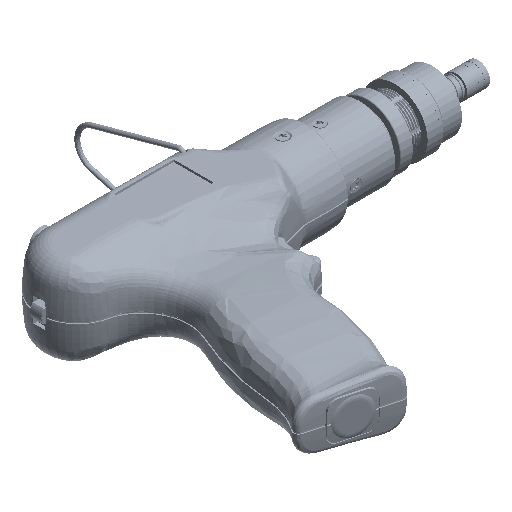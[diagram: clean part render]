
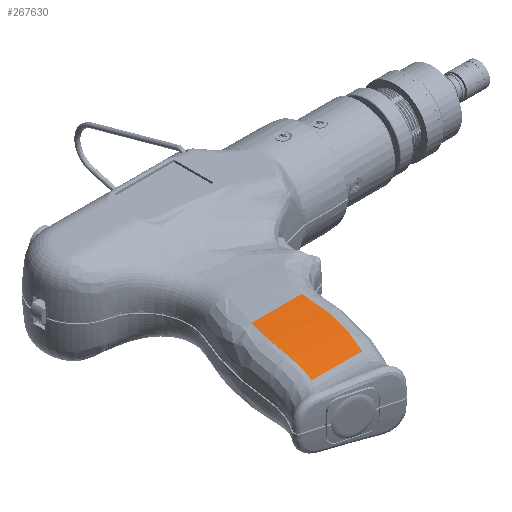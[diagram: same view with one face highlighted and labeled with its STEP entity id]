
A CAD part, isometric view. The second image highlights one B-rep face of the part: STEP entity #267630.
In plain terms, the highlighted cylindrical face has radius 275.277 mm (diameter 550.554 mm), a partial arc.
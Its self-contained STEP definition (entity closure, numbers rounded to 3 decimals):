
#1882 = CARTESIAN_POINT ( 'NONE',  ( -37.012, -56.158, 24.851 ) ) ;
#10580 = CARTESIAN_POINT ( 'NONE',  ( -37.594, -58.795, 24.553 ) ) ;
#12945 = CARTESIAN_POINT ( 'NONE',  ( -8.636, -48.689, 25.585 ) ) ;
#14195 = CARTESIAN_POINT ( 'NONE',  ( -7.089, -39.622, 26.199 ) ) ;
#34632 = CARTESIAN_POINT ( 'NONE',  ( -36.857, -55.418, 24.933 ) ) ;
#39762 = CARTESIAN_POINT ( 'NONE',  ( -5.935, -25.531, 26.56 ) ) ;
#41962 = CARTESIAN_POINT ( 'NONE',  ( -8.409, -47.659, 25.67 ) ) ;
#43228 = CARTESIAN_POINT ( 'NONE',  ( -7.03, -39.095, 26.226 ) ) ;
#44469 = CARTESIAN_POINT ( 'NONE',  ( -6.833, -37.132, 26.317 ) ) ;
#45014 = CARTESIAN_POINT ( 'NONE',  ( -6.133, -25.531, 26.56 ) ) ;
#50062 = CARTESIAN_POINT ( 'NONE',  ( -33.79, -33.82, 26.439 ) ) ;
#57374 = ORIENTED_EDGE ( 'NONE', *, *, #143124, .T. ) ;
#59590 = EDGE_CURVE ( 'NONE', #366988, #119043, #328918, .T. ) ;
#60059 = FACE_OUTER_BOUND ( 'NONE', #230865, .T. ) ;
#69615 = CARTESIAN_POINT ( 'NONE',  ( -11.607, -58.804, 24.543 ) ) ;
#72152 = CARTESIAN_POINT ( 'NONE',  ( -6.739, -35.883, 26.366 ) ) ;
#72678 = CARTESIAN_POINT ( 'NONE',  ( -6.525, -30.34, 26.518 ) ) ;
#73361 = CARTESIAN_POINT ( 'NONE',  ( -13.43, -63.376, 23.946 ) ) ;
#89570 = VERTEX_POINT ( 'NONE', #366805 ) ;
#90597 = LINE ( 'NONE', #373429, #207756 ) ;
#94478 = EDGE_CURVE ( 'NONE', #260643, #144713, #90597, .T. ) ;
#98798 = CARTESIAN_POINT ( 'NONE',  ( -38.269, -61.103, 24.262 ) ) ;
#100640 = CYLINDRICAL_SURFACE ( 'NONE', #291442, 275.277 ) ;
#101125 = CARTESIAN_POINT ( 'NONE',  ( -6.681, -34.992, 26.398 ) ) ;
#101779 = DIRECTION ( 'NONE',  ( 0., 0., 1. ) ) ;
#104326 = CARTESIAN_POINT ( 'NONE',  ( -34.285, -36.404, 26.346 ) ) ;
#108062 = CARTESIAN_POINT ( 'NONE',  ( -33.478, -32.349, 26.478 ) ) ;
#117799 = CARTESIAN_POINT ( 'NONE',  ( -36.304, -52.295, 25.261 ) ) ;
#119043 = VERTEX_POINT ( 'NONE', #253167 ) ;
#122780 = CARTESIAN_POINT ( 'NONE',  ( -36.094, -50.494, 25.429 ) ) ;
#123136 = ORIENTED_EDGE ( 'NONE', *, *, #59590, .T. ) ;
#124009 = B_SPLINE_CURVE_WITH_KNOTS ( 'NONE', 3,
 ( #73361, #155329, #128896, #69615, #243609, #300237, #188026, #271282, #185506, #217045, #184274, #12945, #214559, #41962, #330452, #157814, #359328, #186758, #14195, #215803, #43228, #244857, #44469, #72152, #273788, #101125, #130131, #331693, #246104, #366763 ),
 .UNSPECIFIED., .F., .F.,
 ( 4, 2, 1, 2, 2, 1, 1, 2, 2, 1, 1, 1, 2, 2, 1, 1, 2, 2, 4 ),
 ( 0., 0.125, 0.188, 0.219, 0.25, 0.375, 0.438, 0.469, 0.5, 0.625, 0.688, 0.719, 0.734, 0.75, 0.813, 0.844, 0.859, 0.875, 1. ),
 .UNSPECIFIED. ) ;
#128896 = CARTESIAN_POINT ( 'NONE',  ( -12.346, -60.781, 24.297 ) ) ;
#130131 = CARTESIAN_POINT ( 'NONE',  ( -6.67, -34.812, 26.404 ) ) ;
#130835 = CARTESIAN_POINT ( 'NONE',  ( -34.418, -37.143, 26.315 ) ) ;
#132048 = CARTESIAN_POINT ( 'NONE',  ( -32.337, -27.468, 26.56 ) ) ;
#143124 = EDGE_CURVE ( 'NONE', #332050, #89570, #359459, .T. ) ;
#144713 = VERTEX_POINT ( 'NONE', #161797 ) ;
#153831 = EDGE_CURVE ( 'NONE', #119043, #332050, #224671, .T. ) ;
#155329 = CARTESIAN_POINT ( 'NONE',  ( -12.871, -62.086, 24.125 ) ) ;
#157814 = CARTESIAN_POINT ( 'NONE',  ( -7.662, -43.837, 25.957 ) ) ;
#158992 = EDGE_CURVE ( 'NONE', #144713, #366988, #124009, .T. ) ;
#159737 = CARTESIAN_POINT ( 'NONE',  ( -32.821, -29.415, 26.54 ) ) ;
#161797 = CARTESIAN_POINT ( 'NONE',  ( -13.43, -63.376, 23.946 ) ) ;
#162249 = CARTESIAN_POINT ( 'NONE',  ( -31.808, -25.531, 26.56 ) ) ;
#184274 = CARTESIAN_POINT ( 'NONE',  ( -8.872, -49.717, 25.497 ) ) ;
#185506 = CARTESIAN_POINT ( 'NONE',  ( -10.051, -54.127, 25.074 ) ) ;
#186758 = CARTESIAN_POINT ( 'NONE',  ( -7.151, -40.15, 26.172 ) ) ;
#187830 = CARTESIAN_POINT ( 'NONE',  ( -39.103, -63.376, 23.946 ) ) ;
#188026 = CARTESIAN_POINT ( 'NONE',  ( -10.691, -56.138, 24.854 ) ) ;
#189756 = ORIENTED_EDGE ( 'NONE', *, *, #355392, .T. ) ;
#203443 = CARTESIAN_POINT ( 'NONE',  ( -36.655, -54.379, 25.046 ) ) ;
#207756 = VECTOR ( 'NONE', #223766, 1000. ) ;
#214559 = CARTESIAN_POINT ( 'NONE',  ( -8.483, -48.001, 25.642 ) ) ;
#215803 = CARTESIAN_POINT ( 'NONE',  ( -7.049, -39.269, 26.217 ) ) ;
#217045 = CARTESIAN_POINT ( 'NONE',  ( -9.466, -52.104, 25.281 ) ) ;
#222736 = CARTESIAN_POINT ( 'NONE',  ( -34.352, -36.774, 26.331 ) ) ;
#223766 = DIRECTION ( 'NONE',  ( 1., 0., 0. ) ) ;
#224671 = LINE ( 'NONE', #39762, #238043 ) ;
#230865 = EDGE_LOOP ( 'NONE', ( #123136, #336483, #57374, #189756, #266228, #342343 ) ) ;
#238043 = VECTOR ( 'NONE', #296813, 1000. ) ;
#243609 = CARTESIAN_POINT ( 'NONE',  ( -11.25, -57.81, 24.663 ) ) ;
#244166 = CARTESIAN_POINT ( 'NONE',  ( -6.514, -28.726, 26.546 ) ) ;
#244857 = CARTESIAN_POINT ( 'NONE',  ( -6.934, -38.202, 26.269 ) ) ;
#245786 = B_SPLINE_CURVE_WITH_KNOTS ( 'NONE', 3,
 ( #261468, #122780, #117799, #203443, #34632, #324401, #1882, #326886, #10580, #98798, #270183 ),
 .UNSPECIFIED., .F., .F.,
 ( 4, 1, 1, 1, 2, 2, 4 ),
 ( 0., 0.25, 0.375, 0.437, 0.469, 0.5, 1. ),
 .UNSPECIFIED. ) ;
#246104 = CARTESIAN_POINT ( 'NONE',  ( -6.536, -31.796, 26.493 ) ) ;
#249278 = CARTESIAN_POINT ( 'NONE',  ( -35.995, -49.289, 25.533 ) ) ;
#251778 = CARTESIAN_POINT ( 'NONE',  ( -34.396, -37.02, 26.32 ) ) ;
#253167 = CARTESIAN_POINT ( 'NONE',  ( -6.133, -25.531, 26.56 ) ) ;
#259791 = CARTESIAN_POINT ( 'NONE',  ( -6.525, -30.34, 26.518 ) ) ;
#260643 = VERTEX_POINT ( 'NONE', #187830 ) ;
#261468 = CARTESIAN_POINT ( 'NONE',  ( -35.995, -49.289, 25.533 ) ) ;
#266228 = ORIENTED_EDGE ( 'NONE', *, *, #94478, .T. ) ;
#267630 = ADVANCED_FACE ( 'NONE', ( #60059 ), #100640, .T. ) ;
#270183 = CARTESIAN_POINT ( 'NONE',  ( -39.103, -63.376, 23.946 ) ) ;
#271282 = CARTESIAN_POINT ( 'NONE',  ( -10.581, -55.8, 24.891 ) ) ;
#271926 = CARTESIAN_POINT ( 'NONE',  ( -5.935, -25.531, -248.717 ) ) ;
#273788 = CARTESIAN_POINT ( 'NONE',  ( -6.704, -35.349, 26.385 ) ) ;
#278249 = CARTESIAN_POINT ( 'NONE',  ( -34.125, -35.542, 26.379 ) ) ;
#291442 = AXIS2_PLACEMENT_3D ( 'NONE', #271926, #303371, #101779 ) ;
#296813 = DIRECTION ( 'NONE',  ( -1., 0., 0. ) ) ;
#300237 = CARTESIAN_POINT ( 'NONE',  ( -10.912, -56.808, 24.778 ) ) ;
#303287 = CARTESIAN_POINT ( 'NONE',  ( -6.384, -27.123, 26.56 ) ) ;
#303371 = DIRECTION ( 'NONE',  ( -1., 0., 0. ) ) ;
#324401 = CARTESIAN_POINT ( 'NONE',  ( -36.949, -55.862, 24.884 ) ) ;
#326886 = CARTESIAN_POINT ( 'NONE',  ( -37.044, -56.307, 24.835 ) ) ;
#328918 = B_SPLINE_CURVE_WITH_KNOTS ( 'NONE', 3,
 ( #72678, #244166, #303287, #45014 ),
 .UNSPECIFIED., .F., .F.,
 ( 4, 4 ),
 ( 0., 0.152 ),
 .UNSPECIFIED. ) ;
#330452 = CARTESIAN_POINT ( 'NONE',  ( -8.046, -45.926, 25.807 ) ) ;
#331693 = CARTESIAN_POINT ( 'NONE',  ( -6.581, -33.228, 26.456 ) ) ;
#332050 = VERTEX_POINT ( 'NONE', #351153 ) ;
#333646 = CARTESIAN_POINT ( 'NONE',  ( -35.663, -45.266, 25.882 ) ) ;
#336483 = ORIENTED_EDGE ( 'NONE', *, *, #153831, .T. ) ;
#342343 = ORIENTED_EDGE ( 'NONE', *, *, #158992, .T. ) ;
#351153 = CARTESIAN_POINT ( 'NONE',  ( -31.808, -25.531, 26.56 ) ) ;
#355392 = EDGE_CURVE ( 'NONE', #89570, #260643, #245786, .T. ) ;
#359328 = CARTESIAN_POINT ( 'NONE',  ( -7.306, -41.382, 26.105 ) ) ;
#359459 = B_SPLINE_CURVE_WITH_KNOTS ( 'NONE', 3,
 ( #162249, #132048, #159737, #108062, #50062, #278249, #104326, #222736, #251778, #130835, #365002, #333646, #249278 ),
 .UNSPECIFIED., .F., .F.,
 ( 4, 2, 1, 1, 1, 2, 2, 4 ),
 ( 0.437, 0.578, 0.648, 0.684, 0.701, 0.71, 0.719, 1. ),
 .UNSPECIFIED. ) ;
#365002 = CARTESIAN_POINT ( 'NONE',  ( -35.145, -41.257, 26.14 ) ) ;
#366763 = CARTESIAN_POINT ( 'NONE',  ( -6.525, -30.34, 26.518 ) ) ;
#366805 = CARTESIAN_POINT ( 'NONE',  ( -35.995, -49.289, 25.533 ) ) ;
#366988 = VERTEX_POINT ( 'NONE', #259791 ) ;
#373429 = CARTESIAN_POINT ( 'NONE',  ( -5.935, -63.376, 23.946 ) ) ;
